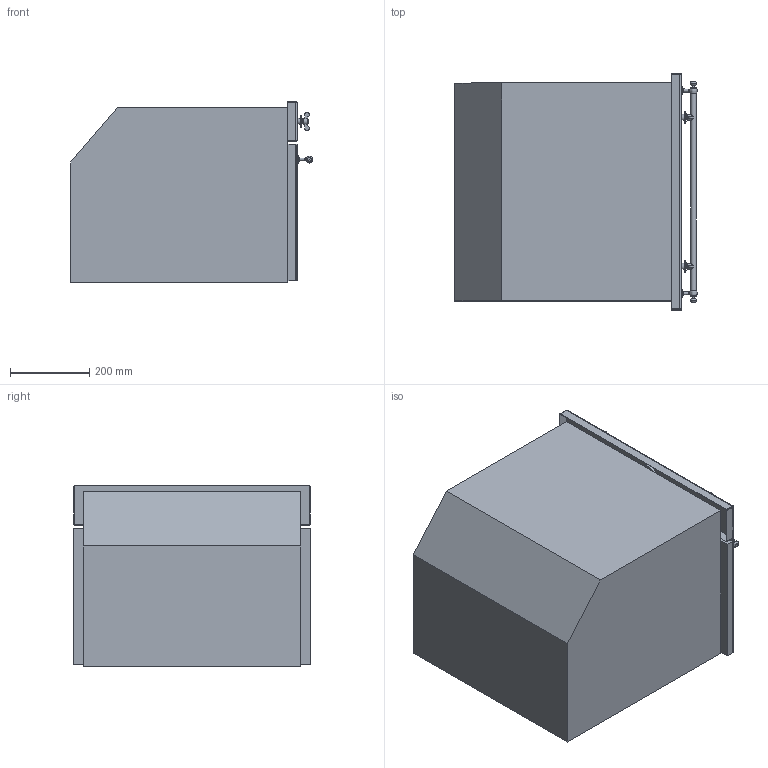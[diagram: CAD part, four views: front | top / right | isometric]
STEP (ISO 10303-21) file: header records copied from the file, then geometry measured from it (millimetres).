
FILE_DESCRIPTION(/* description */ (''),/* implementation_level */ '2;1');
FILE_NAME(/* name */ 'SF4800MCP.stp',/* time_stamp */ '2015-10-28T12:36:52+01:00',/* author */ (''),/* organization */ (''),/* preprocessor_version */ 'ST-DEVELOPER v11',/* originating_system */ 'SIEMENS PLM Software NX 7.5',/* authorisation */ '');
FILE_SCHEMA (('AUTOMOTIVE_DESIGN { 1 0 10303 214 1 1 1 1 }'));
Length unit declared in the file: millimetre
Products named in the file (1): FAVE7E53x6om
Bounding box: 611.6 x 597 x 456.5 mm (x, y, z)
Volume: 133836566.5 mm3; surface area: 3062052.5 mm2
Topology: 23 solids, 23 shells, 357 faces, 840 edges, 550 vertices
Faces by surface type: plane 176, cylinder 125, torus 21, bspline 11, cone 10, sphere 8, extrusion 6
Full cylindrical faces by diameter (mm): 4.351 x2, 5.5 x2, 6 x2, 10 x2, 11.75 x2, 12 x5, 13 x2, 14 x5, 14.3 x2, 15 x2, 16.6 x2, 20 x2, 30 x2, 48 x1, 51.8 x1, 52 x1, 54.8 x1, 55 x1, 57.2 x1
Entity records: 11766 total; most frequent: CARTESIAN_POINT 3744, DIRECTION 1676, ORIENTED_EDGE 1412, EDGE_CURVE 706, AXIS2_PLACEMENT_3D 650, VERTEX_POINT 512, EDGE_LOOP 500, VECTOR 376
